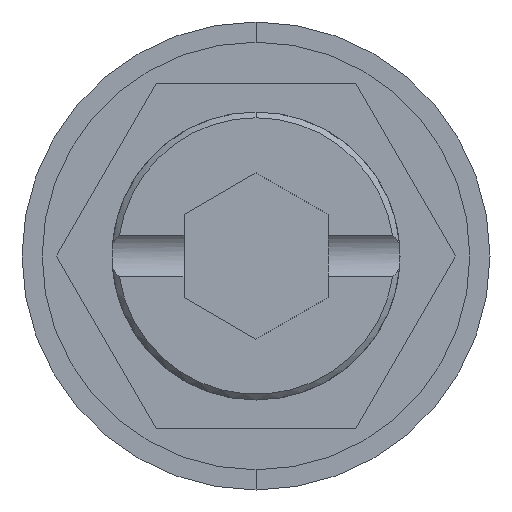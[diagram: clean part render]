
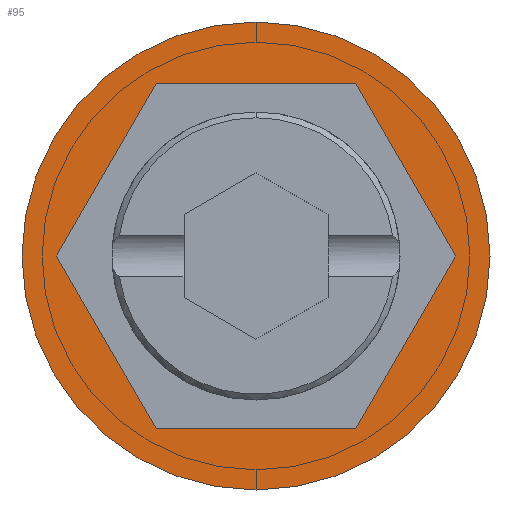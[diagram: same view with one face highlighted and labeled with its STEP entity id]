
A CAD part, front view. The second image highlights one B-rep face of the part: STEP entity #95.
In plain terms, the highlighted planar face has unit normal (0, -1, 0).
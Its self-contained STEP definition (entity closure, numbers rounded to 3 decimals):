
#55 = EDGE_CURVE ( 'NONE', #213, #57, #920, .T. ) ;
#57 = VERTEX_POINT ( 'NONE', #1025 ) ;
#73 = EDGE_CURVE ( 'NONE', #473, #1941, #1349, .T. ) ;
#81 = ORIENTED_EDGE ( 'NONE', *, *, #743, .F. ) ;
#89 = FACE_BOUND ( 'NONE', #685, .T. ) ;
#95 = ADVANCED_FACE ( 'NONE', ( #89, #864 ), #1161, .T. ) ;
#130 = ORIENTED_EDGE ( 'NONE', *, *, #1576, .T. ) ;
#213 = VERTEX_POINT ( 'NONE', #1359 ) ;
#237 = EDGE_CURVE ( 'NONE', #1753, #473, #2098, .T. ) ;
#306 = CIRCLE ( 'NONE', #1354, 8.125 ) ;
#391 = ORIENTED_EDGE ( 'NONE', *, *, #1790, .F. ) ;
#444 = VECTOR ( 'NONE', #1404, 1000. ) ;
#473 = VERTEX_POINT ( 'NONE', #1760 ) ;
#508 = EDGE_CURVE ( 'NONE', #57, #722, #1145, .T. ) ;
#525 = VECTOR ( 'NONE', #1488, 1000. ) ;
#538 = CARTESIAN_POINT ( 'NONE',  ( 0., 0., 8.125 ) ) ;
#544 = DIRECTION ( 'NONE',  ( 0., -1., 0. ) ) ;
#546 = CARTESIAN_POINT ( 'NONE',  ( 0., 0., 0. ) ) ;
#548 = DIRECTION ( 'NONE',  ( 0., 0., -1. ) ) ;
#562 = CIRCLE ( 'NONE', #674, 8.125 ) ;
#653 = EDGE_LOOP ( 'NONE', ( #130, #1265 ) ) ;
#674 = AXIS2_PLACEMENT_3D ( 'NONE', #546, #544, #548 ) ;
#685 = EDGE_LOOP ( 'NONE', ( #81, #1407, #1773, #391, #2079, #2105 ) ) ;
#704 = CARTESIAN_POINT ( 'NONE',  ( -3.464, 0., -6. ) ) ;
#709 = CARTESIAN_POINT ( 'NONE',  ( 3.464, 0., 6. ) ) ;
#713 = CARTESIAN_POINT ( 'NONE',  ( 0., 0., -8.125 ) ) ;
#722 = VERTEX_POINT ( 'NONE', #709 ) ;
#725 = VERTEX_POINT ( 'NONE', #538 ) ;
#743 = EDGE_CURVE ( 'NONE', #1941, #213, #1672, .T. ) ;
#748 = VERTEX_POINT ( 'NONE', #713 ) ;
#782 = AXIS2_PLACEMENT_3D ( 'NONE', #1146, #1106, #1163 ) ;
#864 = FACE_OUTER_BOUND ( 'NONE', #653, .T. ) ;
#920 = LINE ( 'NONE', #1027, #2067 ) ;
#944 = CARTESIAN_POINT ( 'NONE',  ( 0., 0., 0. ) ) ;
#955 = DIRECTION ( 'NONE',  ( -1., 0., 0. ) ) ;
#1008 = DIRECTION ( 'NONE',  ( 0.5, 0., -0.866 ) ) ;
#1025 = CARTESIAN_POINT ( 'NONE',  ( 6.928, 0., 0. ) ) ;
#1027 = CARTESIAN_POINT ( 'NONE',  ( 3.464, 0., -6. ) ) ;
#1040 = DIRECTION ( 'NONE',  ( 0.5, 0., 0.866 ) ) ;
#1057 = CARTESIAN_POINT ( 'NONE',  ( -6.928, 0., 0. ) ) ;
#1106 = DIRECTION ( 'NONE',  ( 0., -1., 0. ) ) ;
#1113 = CARTESIAN_POINT ( 'NONE',  ( 3.464, 0., 6. ) ) ;
#1143 = EDGE_CURVE ( 'NONE', #725, #748, #562, .T. ) ;
#1145 = LINE ( 'NONE', #1937, #1306 ) ;
#1146 = CARTESIAN_POINT ( 'NONE',  ( 0., 0., 0. ) ) ;
#1161 = PLANE ( 'NONE',  #782 ) ;
#1163 = DIRECTION ( 'NONE',  ( 0., 0., -1. ) ) ;
#1265 = ORIENTED_EDGE ( 'NONE', *, *, #1143, .T. ) ;
#1274 = VECTOR ( 'NONE', #1008, 1000. ) ;
#1306 = VECTOR ( 'NONE', #1944, 1000. ) ;
#1349 = LINE ( 'NONE', #1057, #1274 ) ;
#1354 = AXIS2_PLACEMENT_3D ( 'NONE', #944, #1968, #1456 ) ;
#1359 = CARTESIAN_POINT ( 'NONE',  ( 3.464, 0., -6. ) ) ;
#1385 = CARTESIAN_POINT ( 'NONE',  ( -3.464, 0., 6. ) ) ;
#1404 = DIRECTION ( 'NONE',  ( -0.5, 0., -0.866 ) ) ;
#1407 = ORIENTED_EDGE ( 'NONE', *, *, #73, .F. ) ;
#1409 = CARTESIAN_POINT ( 'NONE',  ( -3.464, 0., 6. ) ) ;
#1456 = DIRECTION ( 'NONE',  ( 0., 0., -1. ) ) ;
#1488 = DIRECTION ( 'NONE',  ( 1., 0., 0. ) ) ;
#1576 = EDGE_CURVE ( 'NONE', #748, #725, #306, .T. ) ;
#1635 = CARTESIAN_POINT ( 'NONE',  ( -3.464, 0., -6. ) ) ;
#1672 = LINE ( 'NONE', #704, #525 ) ;
#1753 = VERTEX_POINT ( 'NONE', #1409 ) ;
#1760 = CARTESIAN_POINT ( 'NONE',  ( -6.928, 0., 0. ) ) ;
#1773 = ORIENTED_EDGE ( 'NONE', *, *, #237, .F. ) ;
#1790 = EDGE_CURVE ( 'NONE', #722, #1753, #2133, .T. ) ;
#1937 = CARTESIAN_POINT ( 'NONE',  ( 6.928, 0., 0. ) ) ;
#1941 = VERTEX_POINT ( 'NONE', #1635 ) ;
#1944 = DIRECTION ( 'NONE',  ( -0.5, 0., 0.866 ) ) ;
#1968 = DIRECTION ( 'NONE',  ( 0., -1., 0. ) ) ;
#2067 = VECTOR ( 'NONE', #1040, 1000. ) ;
#2079 = ORIENTED_EDGE ( 'NONE', *, *, #508, .F. ) ;
#2098 = LINE ( 'NONE', #1385, #444 ) ;
#2105 = ORIENTED_EDGE ( 'NONE', *, *, #55, .F. ) ;
#2129 = VECTOR ( 'NONE', #955, 1000. ) ;
#2133 = LINE ( 'NONE', #1113, #2129 ) ;
